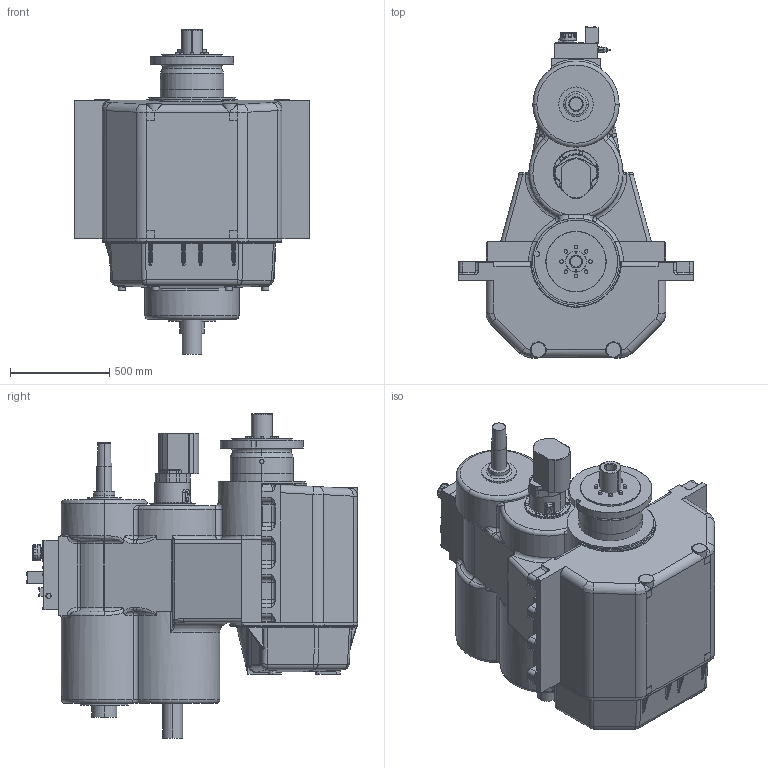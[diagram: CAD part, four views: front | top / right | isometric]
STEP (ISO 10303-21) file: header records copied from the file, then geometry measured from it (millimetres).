
FILE_DESCRIPTION((''),'2;1');
FILE_NAME('TYPE45','2025-04-11T09:12:18',('hve'),('ME Production'),'CREO PARAMETRIC BY PTC INC, 2024401','CREO PARAMETRIC BY PTC INC, 2024401','');
FILE_SCHEMA(('CONFIG_CONTROL_DESIGN'));
Products named in the file (1): TYPE45
Bounding box: 1184.01 x 1675 x 1636.85 mm (x, y, z)
Surface area: 9121103.3 mm2 (no closed solid volume)
Topology: 0 solids, 108 shells, 1334 faces, 3553 edges, 2244 vertices
Faces by surface type: cylinder 529, plane 366, bspline 185, torus 156, sphere 65, cone 33
Entity records: 54880 total; most frequent: CARTESIAN_POINT 23435, DIRECTION 6532, ORIENTED_EDGE 6374, EDGE_CURVE 3552, AXIS2_PLACEMENT_3D 2587, VERTEX_POINT 2244, CIRCLE 1438, VECTOR 1358
